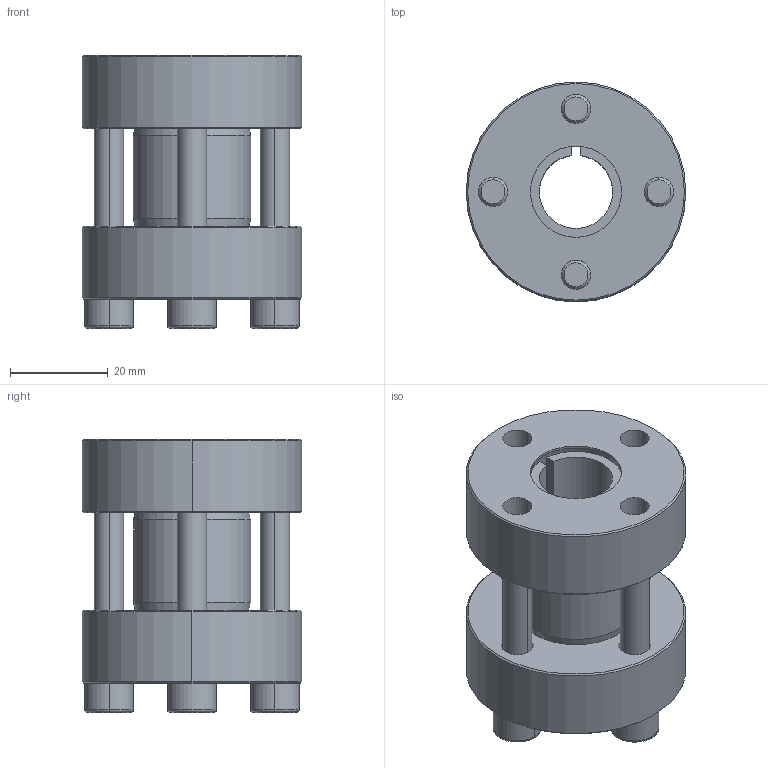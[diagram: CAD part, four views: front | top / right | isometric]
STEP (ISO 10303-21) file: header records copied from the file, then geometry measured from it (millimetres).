
FILE_DESCRIPTION (( 'STEP AP214' ), '1' );
FILE_NAME ('CONEX-M-15x45-M.005.step', '2014-07-01T12:12:26', ( 'Pc' ), ( '' ), 'SwSTEP 2.0', 'SolidWorks 2013', '' );
FILE_SCHEMA (( 'AUTOMOTIVE_DESIGN' ));
Length unit declared in the file: millimetre
Products named in the file (1): CONEX-M-15x45-M.005
Bounding box: 45 x 45 x 55.97 mm (x, y, z)
Volume: 50199.4 mm3; surface area: 23807.6 mm2
Topology: 7 solids, 7 shells, 164 faces, 366 edges, 216 vertices
Faces by surface type: plane 68, cylinder 46, cone 34, torus 16
Entity records: 6423 total; most frequent: DIRECTION 858, CARTESIAN_POINT 766, ORIENTED_EDGE 716, EDGE_CURVE 358, AXIS2_PLACEMENT_3D 339, VERTEX_POINT 216, EDGE_LOOP 192, LINE 180
